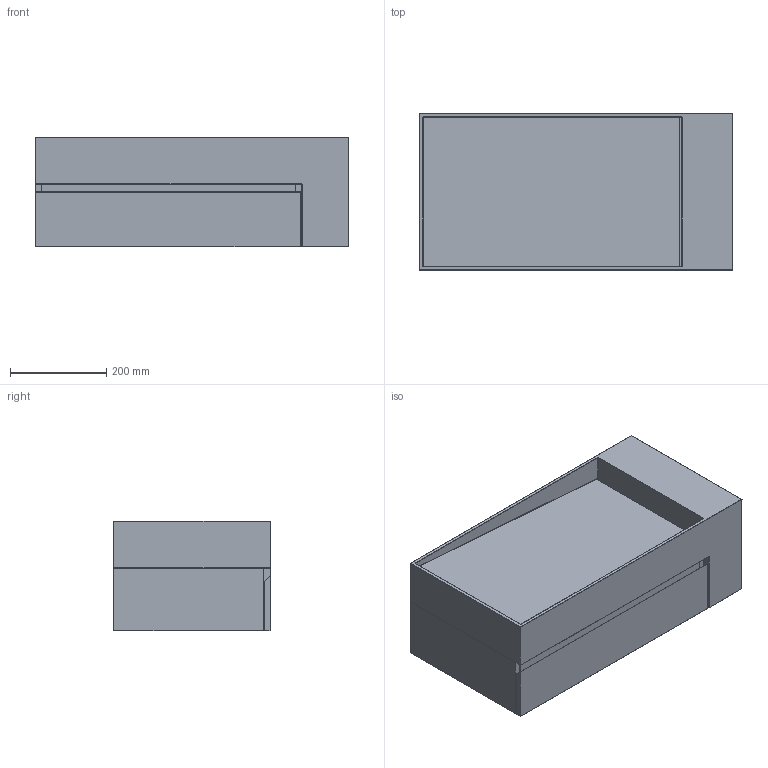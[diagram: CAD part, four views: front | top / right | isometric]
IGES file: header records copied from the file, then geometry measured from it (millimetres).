
Global section: file name: \\Archi-NAS\Comune\X GIOVANNI\SCHEDE PRODOTTO\LAVABI\SOSPESI\CUBIC XS\3D\MOMA DESIGN_LAVABI SOSPESI_CUBIC XS 1.igs; native system: Rhinoceros ( Jan 17 2018 ); preprocessor: Trout Lake IGES 012 Jan 17 2018; date: 230629.102830; units: millimetre
Bounding box: 650.43 x 325.24 x 227.65 mm (x, y, z)
Surface area: 1741315.5 mm2 (no closed solid volume)
Topology: 0 solids, 0 shells, 197 faces, 956 edges, 908 vertices
Faces by surface type: bspline 197
